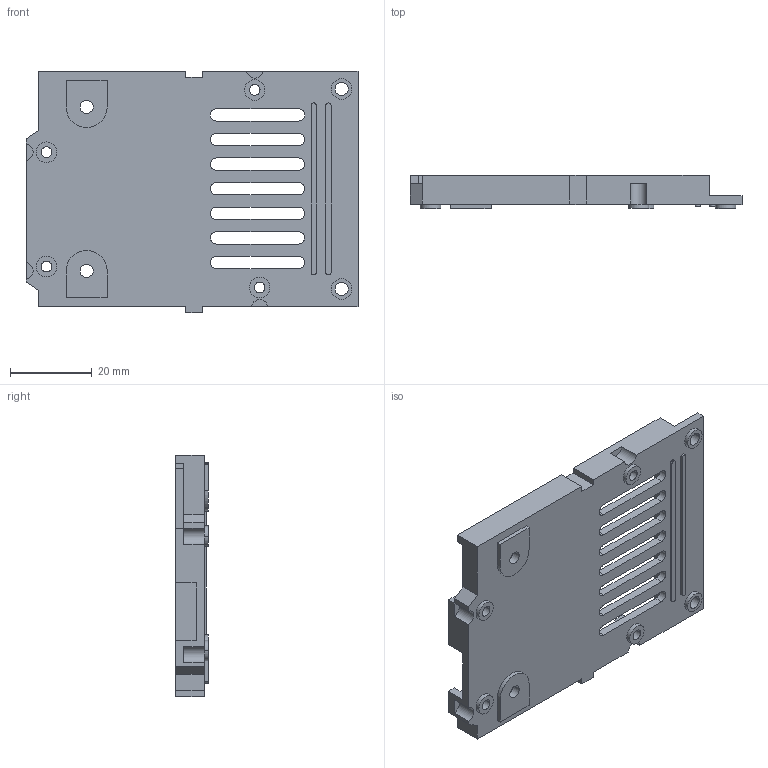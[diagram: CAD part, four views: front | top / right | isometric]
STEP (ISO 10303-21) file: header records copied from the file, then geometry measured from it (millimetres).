
FILE_DESCRIPTION((''),'2;1');
FILE_NAME('BASE_ARDUINO_UNO','2020-02-29T08:00:15',('othma'),(''),'CREO PARAMETRIC BY PTC INC, 2018500','CREO PARAMETRIC BY PTC INC, 2018500','');
FILE_SCHEMA(('CONFIG_CONTROL_DESIGN'));
Length unit declared in the file: millimetre
Products named in the file (1): BASE_ARDUINO_UNO
Bounding box: 81 x 8 x 59 mm (x, y, z)
Volume: 10814.6 mm3; surface area: 12499.8 mm2
Topology: 1 solids, 1 shells, 151 faces, 426 edges, 304 vertices
Faces by surface type: plane 93, cylinder 58
Entity records: 4991 total; most frequent: DIRECTION 860, CARTESIAN_POINT 859, ORIENTED_EDGE 822, EDGE_CURVE 411, VECTOR 310, LINE 310, AXIS2_PLACEMENT_3D 275, VERTEX_POINT 274
